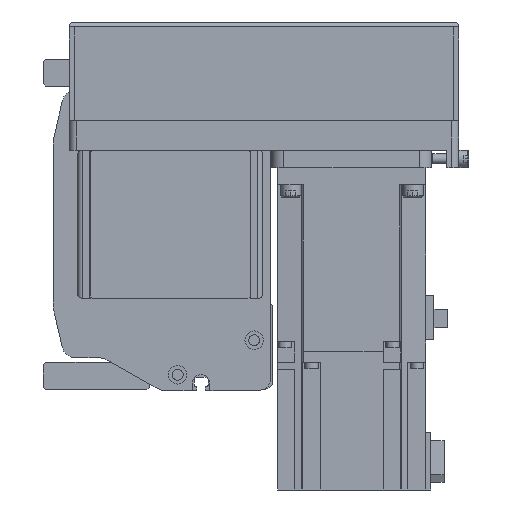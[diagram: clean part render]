
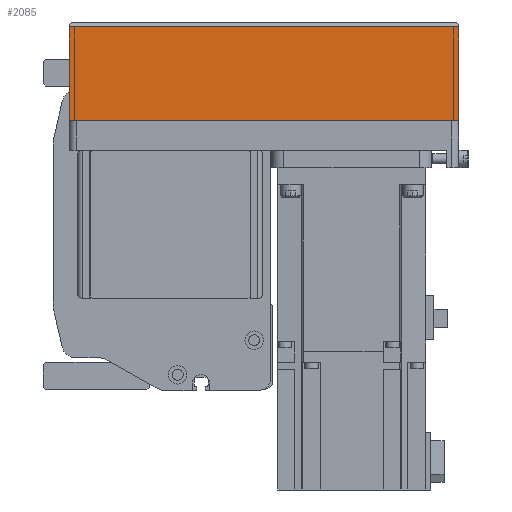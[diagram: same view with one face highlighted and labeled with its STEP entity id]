
A CAD part, left-side view. The second image highlights one B-rep face of the part: STEP entity #2085.
In plain terms, the highlighted planar face has unit normal (-1, 0, 0) as drawn and (0, -1, 0) by its records, which use the part's own axes.
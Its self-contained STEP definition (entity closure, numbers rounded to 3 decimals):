
#2085 = ADVANCED_FACE( '', ( #4700 ), #4701, .T. );
#4700 = FACE_OUTER_BOUND( '', #7894, .T. );
#4701 = PLANE( '', #7895 );
#7894 = EDGE_LOOP( '', ( #13847, #13848, #13849, #13850 ) );
#7895 = AXIS2_PLACEMENT_3D( '', #13851, #13852, #13853 );
#13847 = ORIENTED_EDGE( '', *, *, #18255, .F. );
#13848 = ORIENTED_EDGE( '', *, *, #20546, .F. );
#13849 = ORIENTED_EDGE( '', *, *, #20547, .T. );
#13850 = ORIENTED_EDGE( '', *, *, #20548, .T. );
#13851 = CARTESIAN_POINT( '', ( -158., -39., -12.1 ) );
#13852 = DIRECTION( '', ( 0., -1., 0. ) );
#13853 = DIRECTION( '', ( 0., 0., -1. ) );
#18255 = EDGE_CURVE( '', #21648, #21650, #21651, .T. );
#20546 = EDGE_CURVE( '', #24526, #21648, #25367, .T. );
#20547 = EDGE_CURVE( '', #24526, #25368, #25369, .T. );
#20548 = EDGE_CURVE( '', #25368, #21650, #25370, .T. );
#21648 = VERTEX_POINT( '', #26694 );
#21650 = VERTEX_POINT( '', #26697 );
#21651 = LINE( '', #26698, #26699 );
#24526 = VERTEX_POINT( '', #30836 );
#25367 = LINE( '', #32131, #32132 );
#25368 = VERTEX_POINT( '', #32133 );
#25369 = LINE( '', #32134, #32135 );
#25370 = LINE( '', #32136, #32137 );
#26694 = CARTESIAN_POINT( '', ( 0., -39., -12.1 ) );
#26697 = CARTESIAN_POINT( '', ( 0., -39., -50. ) );
#26698 = CARTESIAN_POINT( '', ( 0., -39., -12.1 ) );
#26699 = VECTOR( '', #34005, 1000. );
#30836 = CARTESIAN_POINT( '', ( -158., -39., -12.1 ) );
#32131 = CARTESIAN_POINT( '', ( -158., -39., -12.1 ) );
#32132 = VECTOR( '', #36975, 1000. );
#32133 = CARTESIAN_POINT( '', ( -158., -39., -50. ) );
#32134 = CARTESIAN_POINT( '', ( -158., -39., -12.1 ) );
#32135 = VECTOR( '', #36976, 1000. );
#32136 = CARTESIAN_POINT( '', ( -158., -39., -50. ) );
#32137 = VECTOR( '', #36977, 1000. );
#34005 = DIRECTION( '', ( 0., 0., -1. ) );
#36975 = DIRECTION( '', ( 1., 0., 0. ) );
#36976 = DIRECTION( '', ( 0., 0., -1. ) );
#36977 = DIRECTION( '', ( 1., 0., 0. ) );
